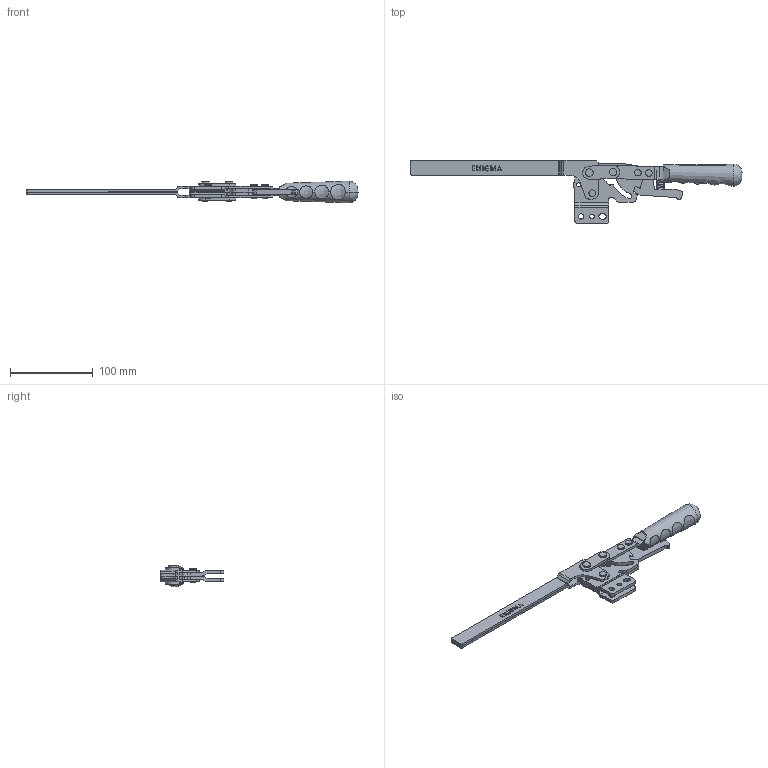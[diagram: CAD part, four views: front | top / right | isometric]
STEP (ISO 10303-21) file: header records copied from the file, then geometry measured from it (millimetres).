
FILE_DESCRIPTION (( 'STEP AP203' ), '1' );
FILE_NAME ('1244_D_L.STEP', '2022-11-26T18:32:26', ( '' ), ( '' ), 'SwSTEP 2.0', 'SolidWorks 2023', '' );
FILE_SCHEMA (( 'CONFIG_CONTROL_DESIGN' ));
Length unit declared in the file: millimetre
Products named in the file (12): C95_Yeni_Tutamak_Varsay_X2_0131_X0_lan; Pim_5x18_Varsay_X2_0131_X0_lan; Aynalama2225_UD_Govde; 2225_K_Mandal3; 1244_D_L; cap5x15_CekmeYay_X2_0131_X0_; Aynalama2225_Lama_Bask_X2_0131_X0_Kolu; Pim_6x24_5_Varsay_X2_0131_X0_lan; 2225_UD_Govde; 2225_Lama_Bask_X2_0131_X0_Kolu; 2225_KozaMafsal; 2225_HareketKolu
Assembly tree (16 placements, depth 2):
  1244_D_L
    2225_UD_Govde
    2225_Lama_Bask_X2_0131_X0_Kolu
    2225_KozaMafsal  x2
    2225_HareketKolu  x2
    Pim_5x18_Varsay_X2_0131_X0_lan  x3
    Pim_6x24_5_Varsay_X2_0131_X0_lan  x2
    2225_K_Mandal3
    cap5x15_CekmeYay_X2_0131_X0_
    Aynalama2225_Lama_Bask_X2_0131_X0_Kolu
    Aynalama2225_UD_Govde
    C95_Yeni_Tutamak_Varsay_X2_0131_X0_lan
Bounding box: 400.72 x 76.94 x 26.35 mm (x, y, z)
Volume: 116055.1 mm3; surface area: 75222.3 mm2
Topology: 16 solids, 16 shells, 1075 faces, 2903 edges, 1905 vertices
Faces by surface type: plane 568, cylinder 282, bspline 223, cone 2
Entity records: 38725 total; most frequent: CARTESIAN_POINT 16038, ORIENTED_EDGE 4788, DIRECTION 3827, EDGE_CURVE 2394, VERTEX_POINT 1583, VECTOR 1503, LINE 1503, AXIS2_PLACEMENT_3D 1162
